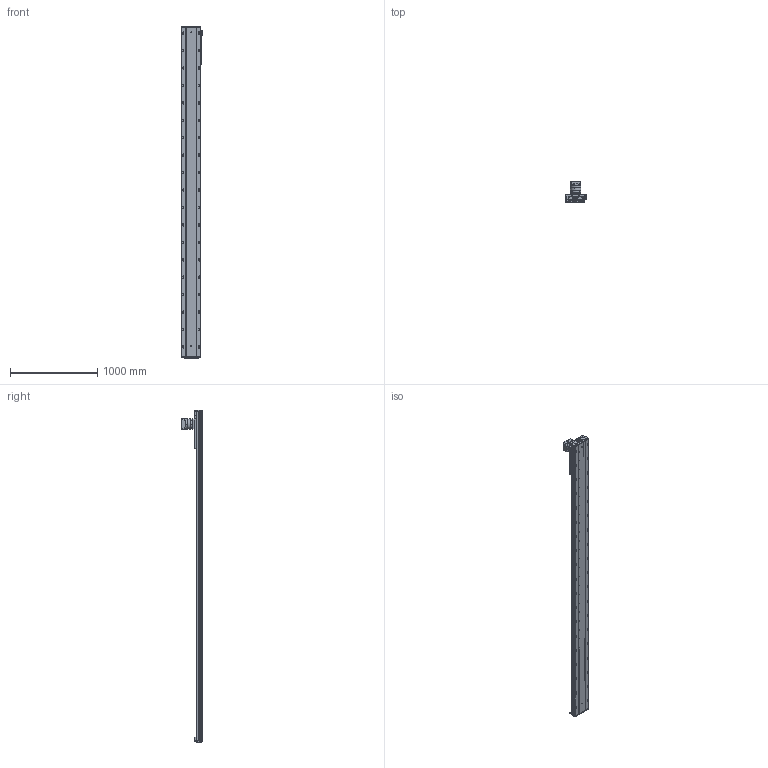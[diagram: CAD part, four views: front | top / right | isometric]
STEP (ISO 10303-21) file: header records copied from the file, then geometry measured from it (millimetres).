
FILE_DESCRIPTION (( 'STEP AP203' ), '1' );
FILE_NAME ('RY220-C-300-UK.SLDASM_3300.step', '2022-08-01T06:00:56', ( '' ), ( '' ), 'SwSTEP 2.0', 'SolidWorks 2016', '' );
FILE_SCHEMA (( 'CONFIG_CONTROL_DESIGN' ));
Length unit declared in the file: millimetre
Products named in the file (10): RY220喘沭賑輸; RY140直线电机感应器674光电安装座; 滅袉蝶輸ㄗG412隅秶ㄘ; RY220-C-300-UK.SLDASM_3300; RY220菁釱MK-300_3300; RY220-齿条模组电机安装板; 覜茼ん674; RY220喘沭俋离覜茼え; RY220喘沭綴裔啣; PF115L1-S2-22-58-110-145-M8
Assembly tree (12 placements, depth 2):
  RY220-C-300-UK.SLDASM_3300
    RY220菁釱MK-300_3300
    RY220喘沭賑輸
    RY220-齿条模组电机安装板
    PF115L1-S2-22-58-110-145-M8
    RY220喘沭綴裔啣  x2
    滅袉蝶輸ㄗG412隅秶ㄘ  x2
    RY140直线电机感应器674光电安装座
    覜茼ん674  x2
    RY220喘沭俋离覜茼え
Bounding box: 247 x 244.5 x 3809 mm (x, y, z)
Volume: 24774386.9 mm3; surface area: 5137482.7 mm2
Topology: 18 solids, 26 shells, 2504 faces, 6757 edges, 4191 vertices
Faces by surface type: cylinder 1241, plane 751, cone 350, bspline 162
Entity records: 79733 total; most frequent: CARTESIAN_POINT 21503, DIRECTION 12103, ORIENTED_EDGE 11714, EDGE_CURVE 5857, AXIS2_PLACEMENT_3D 4659, VERTEX_POINT 3817, EDGE_LOOP 2966, VECTOR 2785
